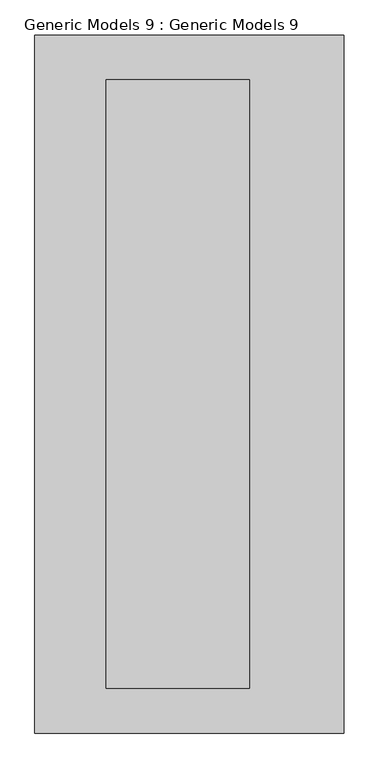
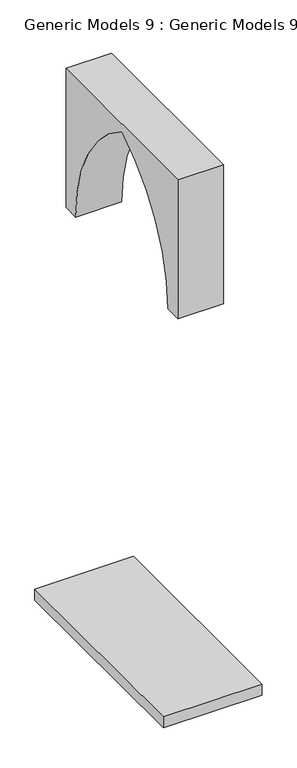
"""IFC4 building model written with IfcOpenShell, lengths in millimetres: proxy geometry, Generic Models 9 : Generic Models 9."""

from ifc_helpers import new_model, si_unit, point, frame, frame_2d, origin, place, context, project, spatial, polyline, circle_curve, trimmed, segment, composite_curve, outline, extrude, source, transform, mapped, element, save


def generic_models_9_generic_models_9_486bed82(model_context):
    return source(origin(), model_context, "Body", "SweptSolid", [
        extrude(outline(polyline([(13199.9998939, 12003.4977909), (13199.9998939, 10253.4977909), (13000.0001123, 10253.4977909), (13000.0001123, 12003.4977909), (13199.9998939, 12003.4977909)])), frame((0.0, 0.0, 900.0), z_axis=(0.0, 0.0, 1.0), x_axis=(1.0, 0.0, 0.0)), (0.0, 0.0, 1.0), 50.0),
        extrude(outline(polyline([(13263.9526577, 12103.4977909), (13263.9526577, 10153.4977909), (12400.0001123, 10153.4977909), (12400.0001123, 12103.4977909), (13263.9526577, 12103.4977909)])), frame((0.0, 0.0, 947.9988494), z_axis=(0.0, 0.0, 1.0), x_axis=(1.0, 0.0, 0.0)), (0.0, 0.0, 1.0), 102.0011506),
        extrude(outline(composite_curve([segment(polyline([(11978.4977909, 5872.1977566), (11978.4977909, 4586.0988783), (11828.4970239, 4586.0988783)]), True, "CONTINUOUS"), segment(trimmed(circle_curve(frame_2d((10428.4977909, 4587.5644347)), 1400.0), [point((11828.4970239, 4586.0988783))], [point((11128.4977909, 5800.0))], True, "CARTESIAN"), True, "CONTINUOUS"), segment(trimmed(circle_curve(frame_2d((11828.4977909, 4587.5644347)), 1400.0), [point((11128.4977909, 5800.0))], [point((10428.498558, 4586.0988783))], True, "CARTESIAN"), True, "CONTINUOUS"), segment(polyline([(10428.498558, 4586.0988783), (10278.4977909, 4586.0988783), (10278.4977909, 5872.1977566), (11978.4977909, 5872.1977566)]), True, "CONTINUOUS")], self_intersect=False)), frame((12599.9998939, 0.0, 0.0), z_axis=(1.0, 0.0, 0.0), x_axis=(0.0, 1.0, 0.0)), (0.0, 0.0, 1.0), 400.0),
    ])


if __name__ == "__main__":
    model = new_model("IFC4")
    model_context = context("Model", 3, world=origin())
    ifc_project = project(units=[si_unit("LENGTHUNIT", "METRE", prefix="MILLI")], contexts=[model_context])
    site = spatial("IfcSite", under=ifc_project)
    building = spatial("IfcBuilding", under=site)
    placement = place(None, origin())
    generic_models_9_generic_models_9_shape = generic_models_9_generic_models_9_486bed82(model_context)
    element("IfcBuildingElementProxy", 1, Name="Generic Models 9 : Generic Models 9", ObjectType="Generic Models 9 : Generic Models 9", at=placement, inside=building, context=model_context, shape_type="MappedRepresentation", body=[
        mapped(generic_models_9_generic_models_9_shape, transform((0.0, 0.0, 0.0), x_axis=(1.0, 0.0, 0.0), y_axis=(0.0, 1.0, 0.0), z_axis=(0.0, 0.0, 1.0))),
    ])
    save(model, "model.ifc")
